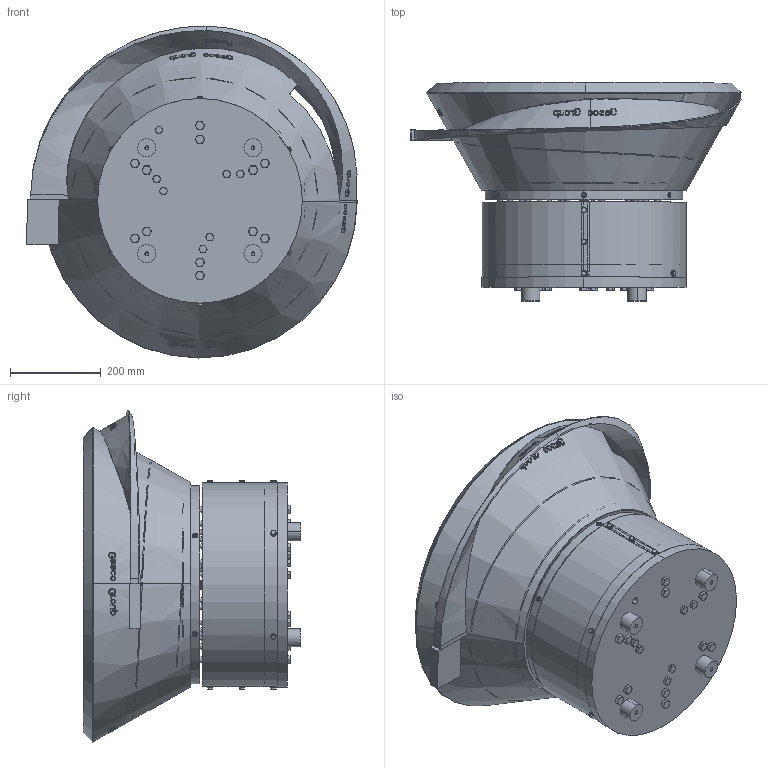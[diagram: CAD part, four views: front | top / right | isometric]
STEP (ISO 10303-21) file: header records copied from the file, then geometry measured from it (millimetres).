
FILE_DESCRIPTION((''),'2;1');
FILE_NAME('4CO-R-BV46-2_ASM','2023-08-31T',('Gabriele'),('GASCO S.r.l.'),'CREO PARAMETRIC BY PTC INC, 2018360','CREO PARAMETRIC BY PTC INC, 2018360','');
FILE_SCHEMA(('AUTOMOTIVE_DESIGN { 1 0 10303 214 1 1 1 1 }'));
Length unit declared in the file: millimetre
Products named in the file (3): CONTENITORE_4CO_R_ORARIO; BV46-R; 4CO-R-BV46-2_ASM
Assembly tree (2 placements, depth 2):
  4CO-R-BV46-2_ASM
    CONTENITORE_4CO_R_ORARIO
    BV46-R
Bounding box: 726.3 x 479.05 x 729.85 mm (x, y, z)
Volume: 2961609 mm3; surface area: 3067949.6 mm2
Topology: 81 solids, 87 shells, 4555 faces, 11851 edges, 7477 vertices
Faces by surface type: plane 3028, cylinder 622, cone 576, bspline 209, torus 120
Entity records: 175967 total; most frequent: CARTESIAN_POINT 67427, ORIENTED_EDGE 23610, DIRECTION 17648, EDGE_CURVE 11805, VERTEX_POINT 7477, AXIS2_PLACEMENT_3D 6689, B_SPLINE_CURVE_WITH_KNOTS 5199, EDGE_LOOP 4868
